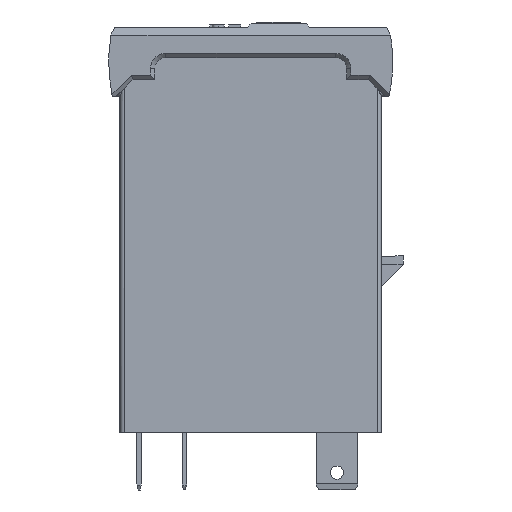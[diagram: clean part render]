
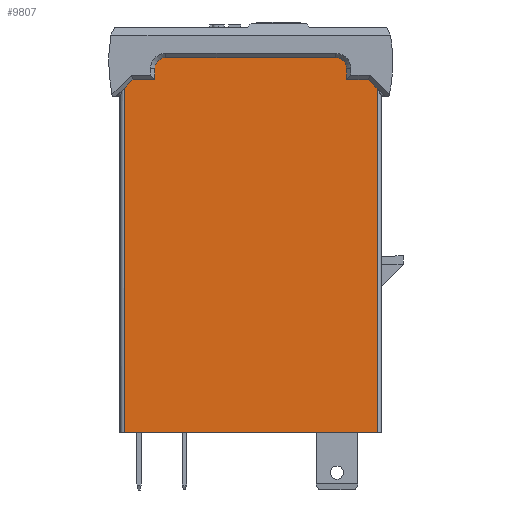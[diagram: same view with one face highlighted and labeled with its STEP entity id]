
A CAD part, left-side view. The second image highlights one B-rep face of the part: STEP entity #9807.
In plain terms, the highlighted planar face has unit normal (-1, 0, 0).
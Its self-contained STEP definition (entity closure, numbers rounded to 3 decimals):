
#18 = CARTESIAN_POINT ( 'NONE',  ( 0.5, 32.5, 6.6 ) ) ;
#23 = VECTOR ( 'NONE', #19435, 1000. ) ;
#195 = VECTOR ( 'NONE', #20702, 1000. ) ;
#273 = CARTESIAN_POINT ( 'NONE',  ( 0.5, 3., 51.6 ) ) ;
#335 = CARTESIAN_POINT ( 'NONE',  ( 0.5, 4., 47.103 ) ) ;
#705 = EDGE_CURVE ( 'NONE', #9295, #7770, #784, .T. ) ;
#784 = CIRCLE ( 'NONE', #22551, 1.25 ) ;
#949 = LINE ( 'NONE', #4806, #15415 ) ;
#1773 = VERTEX_POINT ( 'NONE', #22021 ) ;
#2139 = VECTOR ( 'NONE', #2424, 1000. ) ;
#2424 = DIRECTION ( 'NONE',  ( 0., 0., 1. ) ) ;
#2861 = LINE ( 'NONE', #21553, #23 ) ;
#3058 = LINE ( 'NONE', #9233, #24063 ) ;
#3430 = DIRECTION ( 'NONE',  ( 0., 0., -1. ) ) ;
#3849 = EDGE_CURVE ( 'NONE', #6849, #18717, #949, .T. ) ;
#4555 = EDGE_CURVE ( 'NONE', #16231, #23534, #2861, .T. ) ;
#4806 = CARTESIAN_POINT ( 'NONE',  ( 0.5, 28.5, 48.353 ) ) ;
#5347 = AXIS2_PLACEMENT_3D ( 'NONE', #21969, #10077, #6729 ) ;
#5377 = VERTEX_POINT ( 'NONE', #11303 ) ;
#6125 = VECTOR ( 'NONE', #17183, 1000. ) ;
#6594 = CARTESIAN_POINT ( 'NONE',  ( 0.5, 3., 46.103 ) ) ;
#6729 = DIRECTION ( 'NONE',  ( 0., 1., 0. ) ) ;
#6849 = VERTEX_POINT ( 'NONE', #10965 ) ;
#6858 = CARTESIAN_POINT ( 'NONE',  ( 0.5, 4., 47.103 ) ) ;
#7027 = DIRECTION ( 'NONE',  ( 0., 1., 0. ) ) ;
#7085 = VERTEX_POINT ( 'NONE', #335 ) ;
#7460 = DIRECTION ( 'NONE',  ( 0., 1., 0. ) ) ;
#7697 = CIRCLE ( 'NONE', #5347, 1.25 ) ;
#7770 = VERTEX_POINT ( 'NONE', #15357 ) ;
#8346 = DIRECTION ( 'NONE',  ( 0., 1., 0. ) ) ;
#8803 = EDGE_CURVE ( 'NONE', #11186, #12465, #17348, .T. ) ;
#8873 = DIRECTION ( 'NONE',  ( 0., 1., 0. ) ) ;
#9012 = ORIENTED_EDGE ( 'NONE', *, *, #4555, .T. ) ;
#9233 = CARTESIAN_POINT ( 'NONE',  ( 0.5, 28.5, 47.103 ) ) ;
#9295 = VERTEX_POINT ( 'NONE', #12341 ) ;
#9807 = ADVANCED_FACE ( 'NONE', ( #19877 ), #12336, .F. ) ;
#9897 = ORIENTED_EDGE ( 'NONE', *, *, #11614, .T. ) ;
#10077 = DIRECTION ( 'NONE',  ( -1., 0., 0. ) ) ;
#10965 = CARTESIAN_POINT ( 'NONE',  ( 0.5, 28.5, 48.353 ) ) ;
#11097 = EDGE_CURVE ( 'NONE', #15651, #9295, #22743, .T. ) ;
#11164 = ORIENTED_EDGE ( 'NONE', *, *, #11097, .T. ) ;
#11186 = VERTEX_POINT ( 'NONE', #13534 ) ;
#11234 = CARTESIAN_POINT ( 'NONE',  ( 0.5, 32., 46.103 ) ) ;
#11303 = CARTESIAN_POINT ( 'NONE',  ( 0.5, 27.25, 49.603 ) ) ;
#11614 = EDGE_CURVE ( 'NONE', #12465, #7085, #23388, .T. ) ;
#11833 = CARTESIAN_POINT ( 'NONE',  ( 0.5, 6.5, 47.103 ) ) ;
#11981 = DIRECTION ( 'NONE',  ( 0., 0., -1. ) ) ;
#11991 = CARTESIAN_POINT ( 'NONE',  ( 0.5, 2., 45.103 ) ) ;
#12069 = VECTOR ( 'NONE', #7460, 1000. ) ;
#12092 = EDGE_CURVE ( 'NONE', #1773, #11186, #22455, .T. ) ;
#12336 = PLANE ( 'NONE',  #20320 ) ;
#12341 = CARTESIAN_POINT ( 'NONE',  ( 0.5, 6.5, 48.353 ) ) ;
#12431 = VECTOR ( 'NONE', #8346, 1000. ) ;
#12465 = VERTEX_POINT ( 'NONE', #6594 ) ;
#13111 = EDGE_LOOP ( 'NONE', ( #9012, #18876, #14537, #17197, #9897, #23699, #11164, #15233, #14121, #23643, #23557, #17609 ) ) ;
#13380 = CARTESIAN_POINT ( 'NONE',  ( 0.5, 6.5, 47.103 ) ) ;
#13534 = CARTESIAN_POINT ( 'NONE',  ( 0.5, 3., 6.6 ) ) ;
#13561 = EDGE_CURVE ( 'NONE', #7085, #15651, #16257, .T. ) ;
#13585 = EDGE_CURVE ( 'NONE', #5377, #6849, #7697, .T. ) ;
#14121 = ORIENTED_EDGE ( 'NONE', *, *, #20595, .T. ) ;
#14439 = CARTESIAN_POINT ( 'NONE',  ( 0.5, 32.5, 51.6 ) ) ;
#14537 = ORIENTED_EDGE ( 'NONE', *, *, #12092, .T. ) ;
#14803 = LINE ( 'NONE', #24115, #19209 ) ;
#15004 = LINE ( 'NONE', #24430, #12069 ) ;
#15233 = ORIENTED_EDGE ( 'NONE', *, *, #705, .T. ) ;
#15357 = CARTESIAN_POINT ( 'NONE',  ( 0.5, 7.75, 49.603 ) ) ;
#15415 = VECTOR ( 'NONE', #11981, 1000. ) ;
#15624 = DIRECTION ( 'NONE',  ( 0., 0., 1. ) ) ;
#15651 = VERTEX_POINT ( 'NONE', #13380 ) ;
#16231 = VERTEX_POINT ( 'NONE', #17658 ) ;
#16257 = LINE ( 'NONE', #6858, #12431 ) ;
#16601 = CARTESIAN_POINT ( 'NONE',  ( 0.5, 7.75, 48.353 ) ) ;
#17080 = EDGE_CURVE ( 'NONE', #18717, #16231, #3058, .T. ) ;
#17183 = DIRECTION ( 'NONE',  ( 0., 0.707, 0.707 ) ) ;
#17197 = ORIENTED_EDGE ( 'NONE', *, *, #8803, .T. ) ;
#17348 = LINE ( 'NONE', #273, #18685 ) ;
#17609 = ORIENTED_EDGE ( 'NONE', *, *, #17080, .T. ) ;
#17658 = CARTESIAN_POINT ( 'NONE',  ( 0.5, 31., 47.103 ) ) ;
#18321 = DIRECTION ( 'NONE',  ( -1., 0., 0. ) ) ;
#18569 = DIRECTION ( 'NONE',  ( 0., 1., 0. ) ) ;
#18685 = VECTOR ( 'NONE', #15624, 1000. ) ;
#18717 = VERTEX_POINT ( 'NONE', #19936 ) ;
#18876 = ORIENTED_EDGE ( 'NONE', *, *, #22585, .T. ) ;
#19209 = VECTOR ( 'NONE', #3430, 1000. ) ;
#19435 = DIRECTION ( 'NONE',  ( 0., 0.707, -0.707 ) ) ;
#19877 = FACE_OUTER_BOUND ( 'NONE', #13111, .T. ) ;
#19936 = CARTESIAN_POINT ( 'NONE',  ( 0.5, 28.5, 47.103 ) ) ;
#20320 = AXIS2_PLACEMENT_3D ( 'NONE', #14439, #22004, #7027 ) ;
#20595 = EDGE_CURVE ( 'NONE', #7770, #5377, #15004, .T. ) ;
#20702 = DIRECTION ( 'NONE',  ( 0., -1., 0. ) ) ;
#21553 = CARTESIAN_POINT ( 'NONE',  ( 0.5, 31., 47.103 ) ) ;
#21969 = CARTESIAN_POINT ( 'NONE',  ( 0.5, 27.25, 48.353 ) ) ;
#22004 = DIRECTION ( 'NONE',  ( 1., 0., 0. ) ) ;
#22021 = CARTESIAN_POINT ( 'NONE',  ( 0.5, 32., 6.6 ) ) ;
#22455 = LINE ( 'NONE', #18, #195 ) ;
#22551 = AXIS2_PLACEMENT_3D ( 'NONE', #16601, #18321, #18569 ) ;
#22585 = EDGE_CURVE ( 'NONE', #23534, #1773, #14803, .T. ) ;
#22743 = LINE ( 'NONE', #11833, #2139 ) ;
#23388 = LINE ( 'NONE', #11991, #6125 ) ;
#23534 = VERTEX_POINT ( 'NONE', #11234 ) ;
#23557 = ORIENTED_EDGE ( 'NONE', *, *, #3849, .T. ) ;
#23643 = ORIENTED_EDGE ( 'NONE', *, *, #13585, .T. ) ;
#23699 = ORIENTED_EDGE ( 'NONE', *, *, #13561, .T. ) ;
#24063 = VECTOR ( 'NONE', #8873, 1000. ) ;
#24115 = CARTESIAN_POINT ( 'NONE',  ( 0.5, 32., 51.6 ) ) ;
#24430 = CARTESIAN_POINT ( 'NONE',  ( 0.5, 7.75, 49.603 ) ) ;
